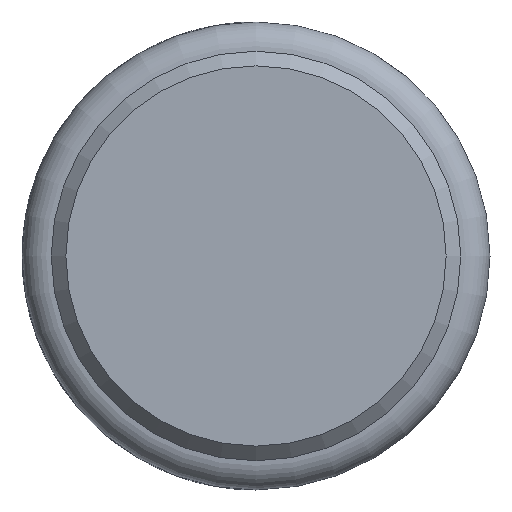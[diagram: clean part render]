
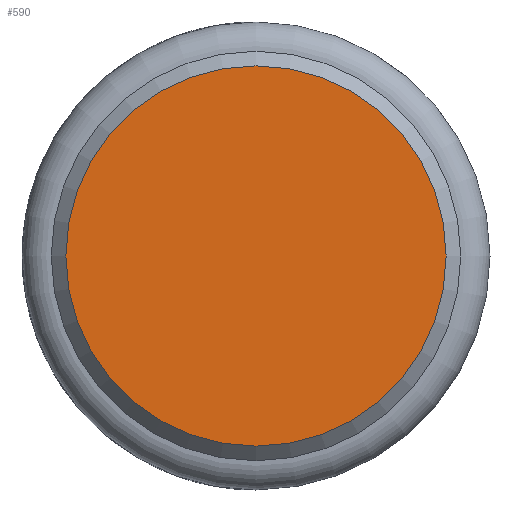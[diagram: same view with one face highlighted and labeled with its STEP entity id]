
A CAD part, left-side view. The second image highlights one B-rep face of the part: STEP entity #590.
In plain terms, the highlighted planar face has unit normal (-1, 0, 0).
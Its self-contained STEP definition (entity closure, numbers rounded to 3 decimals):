
#91 = DIRECTION ( 'NONE',  ( 0., 0., -1. ) ) ;
#181 = EDGE_CURVE ( 'NONE', #471, #471, #1148, .T. ) ;
#275 = CARTESIAN_POINT ( 'NONE',  ( 0., 0., -6.5 ) ) ;
#299 = CARTESIAN_POINT ( 'NONE',  ( 0., 0., -8. ) ) ;
#313 = DIRECTION ( 'NONE',  ( 1., 0., 0. ) ) ;
#343 = ORIENTED_EDGE ( 'NONE', *, *, #181, .T. ) ;
#471 = VERTEX_POINT ( 'NONE', #275 ) ;
#511 = CARTESIAN_POINT ( 'NONE',  ( 0., 0., 0. ) ) ;
#590 = ADVANCED_FACE ( 'NONE', ( #768 ), #801, .F. ) ;
#668 = AXIS2_PLACEMENT_3D ( 'NONE', #511, #1204, #1284 ) ;
#768 = FACE_OUTER_BOUND ( 'NONE', #1018, .T. ) ;
#801 = PLANE ( 'NONE',  #829 ) ;
#829 = AXIS2_PLACEMENT_3D ( 'NONE', #299, #313, #91 ) ;
#1018 = EDGE_LOOP ( 'NONE', ( #343 ) ) ;
#1148 = CIRCLE ( 'NONE', #668, 6.5 ) ;
#1204 = DIRECTION ( 'NONE',  ( -1., 0., 0. ) ) ;
#1284 = DIRECTION ( 'NONE',  ( 0., 0., -1. ) ) ;
